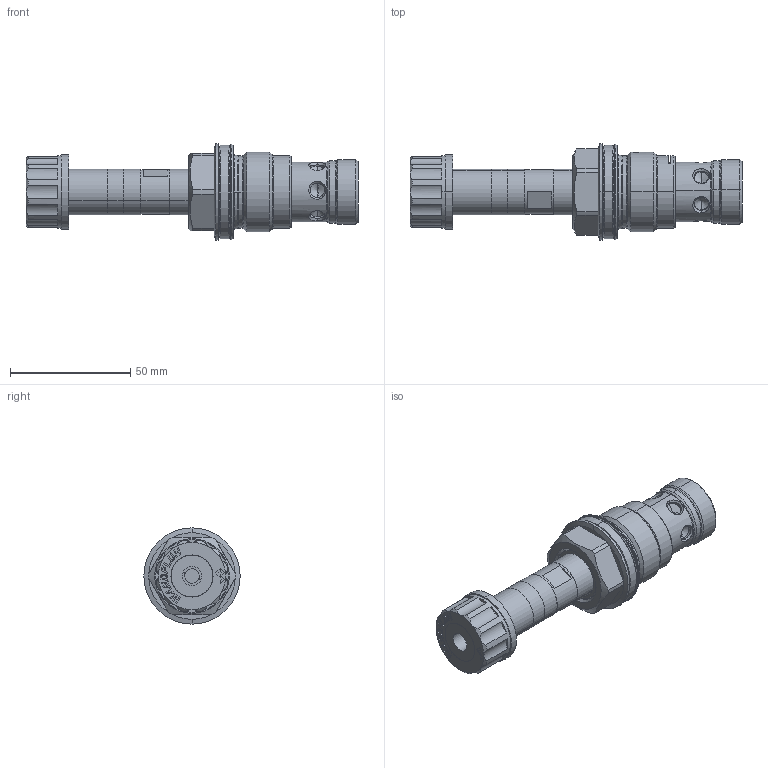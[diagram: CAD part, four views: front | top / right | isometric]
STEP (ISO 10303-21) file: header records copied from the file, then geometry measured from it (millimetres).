
FILE_DESCRIPTION (( 'STEP AP203' ), '1' );
FILE_NAME ('BVPPM33.step', '2013-07-26T07:59:45', ( 'Wandfluh AG' ), ( 'Wandfluh AG' ), 'SwSTEP 2.0', 'SolidWorks 2012', '' );
FILE_SCHEMA (( 'CONFIG_CONTROL_DESIGN' ));
Length unit declared in the file: millimetre
Products named in the file (1): BVPPM33
Bounding box: 137.9 x 40 x 40 mm (x, y, z)
Volume: 76440.7 mm3; surface area: 25263.8 mm2
Topology: 6 solids, 6 shells, 751 faces, 1853 edges, 1135 vertices
Faces by surface type: plane 474, cylinder 115, cone 93, torus 41, bspline 28
Entity records: 23980 total; most frequent: CARTESIAN_POINT 6218, ORIENTED_EDGE 3674, DIRECTION 3649, EDGE_CURVE 1837, VECTOR 1241, LINE 1241, AXIS2_PLACEMENT_3D 1204, VERTEX_POINT 1135
